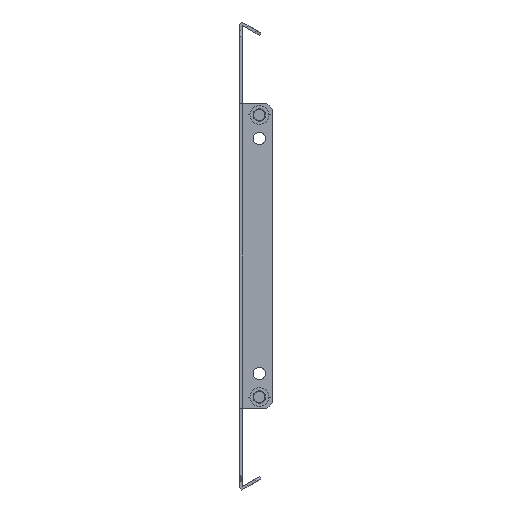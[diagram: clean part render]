
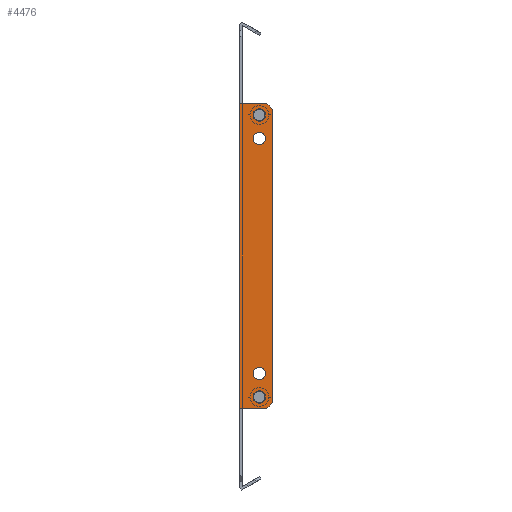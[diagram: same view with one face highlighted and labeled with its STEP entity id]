
A CAD part, front view. The second image highlights one B-rep face of the part: STEP entity #4476.
In plain terms, the highlighted planar face has unit normal (0, -1, 0).
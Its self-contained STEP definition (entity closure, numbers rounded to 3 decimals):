
#36 = CARTESIAN_POINT ( 'NONE',  ( 2.5, -252.75, 81. ) ) ;
#154 = CARTESIAN_POINT ( 'NONE',  ( 17.5, -252.75, -78. ) ) ;
#184 = DIRECTION ( 'NONE',  ( 0., -1., 0. ) ) ;
#187 = ORIENTED_EDGE ( 'NONE', *, *, #7425, .F. ) ;
#192 = CARTESIAN_POINT ( 'NONE',  ( 10.5, -252.75, -62.5 ) ) ;
#277 = EDGE_CURVE ( 'NONE', #5383, #743, #9840, .T. ) ;
#289 = DIRECTION ( 'NONE',  ( 1., 0., 0. ) ) ;
#303 = VERTEX_POINT ( 'NONE', #6130 ) ;
#306 = CARTESIAN_POINT ( 'NONE',  ( 13.75, -252.75, 62.5 ) ) ;
#347 = FACE_BOUND ( 'NONE', #12099, .T. ) ;
#366 = CARTESIAN_POINT ( 'NONE',  ( 7.25, -252.75, 75. ) ) ;
#374 = VECTOR ( 'NONE', #5762, 1000. ) ;
#564 = VERTEX_POINT ( 'NONE', #5732 ) ;
#730 = VERTEX_POINT ( 'NONE', #306 ) ;
#743 = VERTEX_POINT ( 'NONE', #366 ) ;
#817 = AXIS2_PLACEMENT_3D ( 'NONE', #7517, #11549, #1413 ) ;
#1031 = CARTESIAN_POINT ( 'NONE',  ( 10.5, -252.75, -75. ) ) ;
#1079 = DIRECTION ( 'NONE',  ( 0., -1., 0. ) ) ;
#1107 = CARTESIAN_POINT ( 'NONE',  ( 7.25, -252.75, -75. ) ) ;
#1131 = EDGE_LOOP ( 'NONE', ( #12406, #1973 ) ) ;
#1152 = LINE ( 'NONE', #12394, #12165 ) ;
#1162 = VERTEX_POINT ( 'NONE', #3792 ) ;
#1240 = CIRCLE ( 'NONE', #817, 3.25 ) ;
#1251 = CIRCLE ( 'NONE', #9016, 3.25 ) ;
#1365 = DIRECTION ( 'NONE',  ( -1., 0., 0. ) ) ;
#1411 = DIRECTION ( 'NONE',  ( -1., 0., 0. ) ) ;
#1413 = DIRECTION ( 'NONE',  ( -1., 0., 0. ) ) ;
#1460 = CARTESIAN_POINT ( 'NONE',  ( 14.5, -252.75, -81. ) ) ;
#1707 = VECTOR ( 'NONE', #10298, 1000. ) ;
#1779 = ORIENTED_EDGE ( 'NONE', *, *, #11460, .T. ) ;
#1841 = VERTEX_POINT ( 'NONE', #1107 ) ;
#1905 = ORIENTED_EDGE ( 'NONE', *, *, #7633, .F. ) ;
#1943 = DIRECTION ( 'NONE',  ( -1., 0., 0. ) ) ;
#1973 = ORIENTED_EDGE ( 'NONE', *, *, #7607, .F. ) ;
#2044 = CARTESIAN_POINT ( 'NONE',  ( 13.75, -252.75, 75. ) ) ;
#2131 = CARTESIAN_POINT ( 'NONE',  ( 17.5, -252.75, -78. ) ) ;
#2133 = CIRCLE ( 'NONE', #9486, 3.25 ) ;
#2146 = VERTEX_POINT ( 'NONE', #9774 ) ;
#2328 = VERTEX_POINT ( 'NONE', #11604 ) ;
#2427 = EDGE_CURVE ( 'NONE', #4530, #5984, #4616, .T. ) ;
#2529 = LINE ( 'NONE', #9361, #1707 ) ;
#2584 = ORIENTED_EDGE ( 'NONE', *, *, #2792, .F. ) ;
#2617 = DIRECTION ( 'NONE',  ( 0., -1., 0. ) ) ;
#2749 = DIRECTION ( 'NONE',  ( 0., -1., 0. ) ) ;
#2792 = EDGE_CURVE ( 'NONE', #743, #5383, #7198, .T. ) ;
#2928 = LINE ( 'NONE', #6077, #4321 ) ;
#3014 = ORIENTED_EDGE ( 'NONE', *, *, #2427, .T. ) ;
#3149 = DIRECTION ( 'NONE',  ( 0., -1., 0. ) ) ;
#3774 = EDGE_LOOP ( 'NONE', ( #3014, #9158, #11511, #8460, #12685, #9731, #1779, #10297 ) ) ;
#3792 = CARTESIAN_POINT ( 'NONE',  ( 0., -252.75, -81. ) ) ;
#3853 = DIRECTION ( 'NONE',  ( -1., 0., 0. ) ) ;
#3874 = DIRECTION ( 'NONE',  ( -1., 0., 0. ) ) ;
#3970 = ORIENTED_EDGE ( 'NONE', *, *, #9689, .F. ) ;
#4209 = CIRCLE ( 'NONE', #11578, 3.25 ) ;
#4225 = FACE_BOUND ( 'NONE', #7160, .T. ) ;
#4229 = VERTEX_POINT ( 'NONE', #7556 ) ;
#4274 = EDGE_LOOP ( 'NONE', ( #2584, #5371 ) ) ;
#4321 = VECTOR ( 'NONE', #6924, 1000. ) ;
#4368 = EDGE_CURVE ( 'NONE', #5043, #4530, #11140, .T. ) ;
#4400 = EDGE_CURVE ( 'NONE', #4229, #1162, #2928, .T. ) ;
#4420 = CARTESIAN_POINT ( 'NONE',  ( 0., -252.75, 0. ) ) ;
#4476 = ADVANCED_FACE ( 'NONE', ( #5274, #4225, #347, #8236, #12194 ), #8369, .F. ) ;
#4524 = EDGE_CURVE ( 'NONE', #9837, #4722, #1152, .T. ) ;
#4530 = VERTEX_POINT ( 'NONE', #154 ) ;
#4616 = LINE ( 'NONE', #8633, #5528 ) ;
#4695 = DIRECTION ( 'NONE',  ( 0., 0., -1. ) ) ;
#4722 = VERTEX_POINT ( 'NONE', #5935 ) ;
#4762 = LINE ( 'NONE', #7717, #5169 ) ;
#4964 = VECTOR ( 'NONE', #11019, 1000. ) ;
#5043 = VERTEX_POINT ( 'NONE', #1460 ) ;
#5087 = DIRECTION ( 'NONE',  ( -1., 0., 0. ) ) ;
#5169 = VECTOR ( 'NONE', #4695, 1000. ) ;
#5274 = FACE_BOUND ( 'NONE', #4274, .T. ) ;
#5371 = ORIENTED_EDGE ( 'NONE', *, *, #277, .F. ) ;
#5383 = VERTEX_POINT ( 'NONE', #2044 ) ;
#5528 = VECTOR ( 'NONE', #11670, 1000. ) ;
#5583 = AXIS2_PLACEMENT_3D ( 'NONE', #4420, #9292, #289 ) ;
#5732 = CARTESIAN_POINT ( 'NONE',  ( 7.25, -252.75, 62.5 ) ) ;
#5762 = DIRECTION ( 'NONE',  ( 1., 0., 0. ) ) ;
#5935 = CARTESIAN_POINT ( 'NONE',  ( 0., -252.75, 81. ) ) ;
#5984 = VERTEX_POINT ( 'NONE', #11478 ) ;
#5996 = EDGE_CURVE ( 'NONE', #730, #564, #1240, .T. ) ;
#6077 = CARTESIAN_POINT ( 'NONE',  ( 0., -252.75, -81. ) ) ;
#6090 = VERTEX_POINT ( 'NONE', #8903 ) ;
#6130 = CARTESIAN_POINT ( 'NONE',  ( 13.75, -252.75, -75. ) ) ;
#6564 = EDGE_CURVE ( 'NONE', #6090, #2328, #1251, .T. ) ;
#6735 = CARTESIAN_POINT ( 'NONE',  ( 0., -252.75, -81. ) ) ;
#6924 = DIRECTION ( 'NONE',  ( -1., 0., 0. ) ) ;
#7160 = EDGE_LOOP ( 'NONE', ( #187, #8934 ) ) ;
#7187 = DIRECTION ( 'NONE',  ( 0., -1., 0. ) ) ;
#7198 = CIRCLE ( 'NONE', #8044, 3.25 ) ;
#7254 = CARTESIAN_POINT ( 'NONE',  ( 10.5, -252.75, -62.5 ) ) ;
#7425 = EDGE_CURVE ( 'NONE', #564, #730, #10327, .T. ) ;
#7517 = CARTESIAN_POINT ( 'NONE',  ( 10.5, -252.75, 62.5 ) ) ;
#7556 = CARTESIAN_POINT ( 'NONE',  ( 2.5, -252.75, -81. ) ) ;
#7576 = CIRCLE ( 'NONE', #10964, 3.25 ) ;
#7607 = EDGE_CURVE ( 'NONE', #2328, #6090, #7576, .T. ) ;
#7633 = EDGE_CURVE ( 'NONE', #303, #1841, #2133, .T. ) ;
#7717 = CARTESIAN_POINT ( 'NONE',  ( 0., -252.75, 0. ) ) ;
#8044 = AXIS2_PLACEMENT_3D ( 'NONE', #9190, #184, #3874 ) ;
#8236 = FACE_BOUND ( 'NONE', #1131, .T. ) ;
#8369 = PLANE ( 'NONE',  #5583 ) ;
#8460 = ORIENTED_EDGE ( 'NONE', *, *, #4524, .T. ) ;
#8592 = CARTESIAN_POINT ( 'NONE',  ( 10.5, -252.75, 62.5 ) ) ;
#8633 = CARTESIAN_POINT ( 'NONE',  ( 17.5, -252.75, 0. ) ) ;
#8903 = CARTESIAN_POINT ( 'NONE',  ( 7.25, -252.75, -62.5 ) ) ;
#8934 = ORIENTED_EDGE ( 'NONE', *, *, #5996, .F. ) ;
#8987 = DIRECTION ( 'NONE',  ( 0., -1., 0. ) ) ;
#9016 = AXIS2_PLACEMENT_3D ( 'NONE', #192, #3149, #11244 ) ;
#9158 = ORIENTED_EDGE ( 'NONE', *, *, #9492, .T. ) ;
#9190 = CARTESIAN_POINT ( 'NONE',  ( 10.5, -252.75, 75. ) ) ;
#9292 = DIRECTION ( 'NONE',  ( 0., 1., 0. ) ) ;
#9361 = CARTESIAN_POINT ( 'NONE',  ( 14.5, -252.75, 81. ) ) ;
#9418 = EDGE_CURVE ( 'NONE', #2146, #9837, #12462, .T. ) ;
#9486 = AXIS2_PLACEMENT_3D ( 'NONE', #1031, #8987, #12132 ) ;
#9492 = EDGE_CURVE ( 'NONE', #5984, #2146, #2529, .T. ) ;
#9689 = EDGE_CURVE ( 'NONE', #1841, #303, #4209, .T. ) ;
#9731 = ORIENTED_EDGE ( 'NONE', *, *, #4400, .F. ) ;
#9774 = CARTESIAN_POINT ( 'NONE',  ( 14.5, -252.75, 81. ) ) ;
#9837 = VERTEX_POINT ( 'NONE', #36 ) ;
#9840 = CIRCLE ( 'NONE', #11724, 3.25 ) ;
#9904 = CARTESIAN_POINT ( 'NONE',  ( 10.5, -252.75, 75. ) ) ;
#10297 = ORIENTED_EDGE ( 'NONE', *, *, #4368, .T. ) ;
#10298 = DIRECTION ( 'NONE',  ( -0.707, 0., 0.707 ) ) ;
#10327 = CIRCLE ( 'NONE', #10750, 3.25 ) ;
#10409 = EDGE_CURVE ( 'NONE', #4722, #1162, #4762, .T. ) ;
#10565 = CARTESIAN_POINT ( 'NONE',  ( 0., -252.75, 81. ) ) ;
#10750 = AXIS2_PLACEMENT_3D ( 'NONE', #8592, #2617, #1365 ) ;
#10964 = AXIS2_PLACEMENT_3D ( 'NONE', #7254, #7187, #5087 ) ;
#11019 = DIRECTION ( 'NONE',  ( 0.707, 0., 0.707 ) ) ;
#11140 = LINE ( 'NONE', #2131, #4964 ) ;
#11244 = DIRECTION ( 'NONE',  ( -1., 0., 0. ) ) ;
#11345 = DIRECTION ( 'NONE',  ( -1., 0., 0. ) ) ;
#11460 = EDGE_CURVE ( 'NONE', #4229, #5043, #11753, .T. ) ;
#11478 = CARTESIAN_POINT ( 'NONE',  ( 17.5, -252.75, 78. ) ) ;
#11511 = ORIENTED_EDGE ( 'NONE', *, *, #9418, .T. ) ;
#11549 = DIRECTION ( 'NONE',  ( 0., -1., 0. ) ) ;
#11578 = AXIS2_PLACEMENT_3D ( 'NONE', #11765, #2749, #3853 ) ;
#11604 = CARTESIAN_POINT ( 'NONE',  ( 13.75, -252.75, -62.5 ) ) ;
#11670 = DIRECTION ( 'NONE',  ( 0., 0., 1. ) ) ;
#11724 = AXIS2_PLACEMENT_3D ( 'NONE', #9904, #1079, #1943 ) ;
#11753 = LINE ( 'NONE', #6735, #374 ) ;
#11765 = CARTESIAN_POINT ( 'NONE',  ( 10.5, -252.75, -75. ) ) ;
#11785 = VECTOR ( 'NONE', #1411, 1000. ) ;
#12099 = EDGE_LOOP ( 'NONE', ( #3970, #1905 ) ) ;
#12132 = DIRECTION ( 'NONE',  ( -1., 0., 0. ) ) ;
#12165 = VECTOR ( 'NONE', #11345, 1000. ) ;
#12194 = FACE_OUTER_BOUND ( 'NONE', #3774, .T. ) ;
#12394 = CARTESIAN_POINT ( 'NONE',  ( 2.5, -252.75, 81. ) ) ;
#12406 = ORIENTED_EDGE ( 'NONE', *, *, #6564, .F. ) ;
#12462 = LINE ( 'NONE', #10565, #11785 ) ;
#12685 = ORIENTED_EDGE ( 'NONE', *, *, #10409, .T. ) ;
